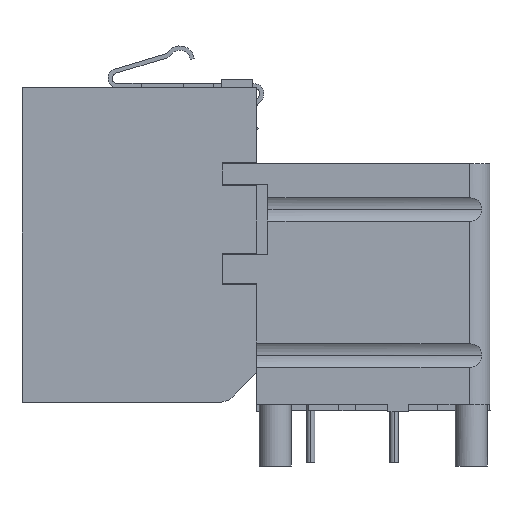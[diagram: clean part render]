
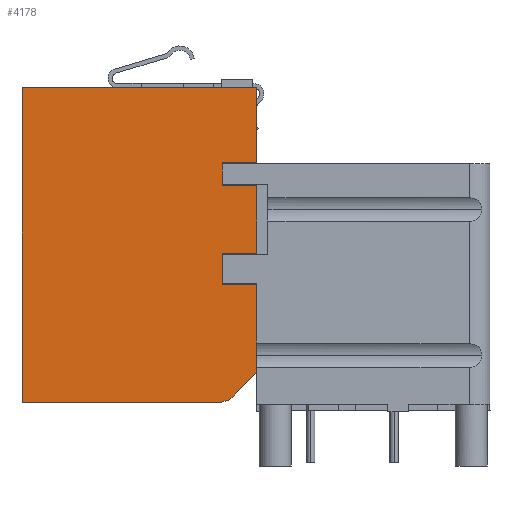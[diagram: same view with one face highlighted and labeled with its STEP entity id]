
A CAD part, front view. The second image highlights one B-rep face of the part: STEP entity #4178.
In plain terms, the highlighted planar face has unit normal (0, -1, 0).
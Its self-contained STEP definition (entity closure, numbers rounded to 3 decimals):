
#4083=AXIS2_PLACEMENT_3D('Circle Axis2P3D',#4081,#4082,$) ;
#4103=AXIS2_PLACEMENT_3D('Plane Axis2P3D',#4100,#4101,#4102) ;
#3100=CARTESIAN_POINT('Vertex',(2.25,-4.,-6.55)) ;
#3103=CARTESIAN_POINT('Line Origine',(1.697,-4.,-7.122)) ;
#3107=CARTESIAN_POINT('Vertex',(1.145,-4.,-7.694)) ;
#3174=CARTESIAN_POINT('Vertex',(2.25,-4.,-2.35)) ;
#3179=CARTESIAN_POINT('Line Origine',(2.25,-4.,-4.45)) ;
#3620=CARTESIAN_POINT('Vertex',(0.6,-4.,3.5)) ;
#3623=CARTESIAN_POINT('Line Origine',(0.6,-4.,2.95)) ;
#3627=CARTESIAN_POINT('Vertex',(0.6,-4.,2.4)) ;
#3648=CARTESIAN_POINT('Vertex',(0.6,-4.,-0.85)) ;
#3651=CARTESIAN_POINT('Line Origine',(0.6,-4.,-1.6)) ;
#3655=CARTESIAN_POINT('Vertex',(0.6,-4.,-2.35)) ;
#4081=CARTESIAN_POINT('Axis2P3D Location',(0.425,-4.,-7.)) ;
#4085=CARTESIAN_POINT('Vertex',(0.425,-4.,-8.)) ;
#4100=CARTESIAN_POINT('Axis2P3D Location',(0.,-4.,7.1)) ;
#4105=CARTESIAN_POINT('Line Origine',(1.425,-4.,2.4)) ;
#4109=CARTESIAN_POINT('Vertex',(2.25,-4.,2.4)) ;
#4112=CARTESIAN_POINT('Line Origine',(1.425,-4.,3.5)) ;
#4116=CARTESIAN_POINT('Vertex',(2.25,-4.,3.5)) ;
#4119=CARTESIAN_POINT('Line Origine',(2.25,-4.,5.3)) ;
#4123=CARTESIAN_POINT('Vertex',(2.25,-4.,7.1)) ;
#4126=CARTESIAN_POINT('Line Origine',(-3.375,-4.,7.1)) ;
#4130=CARTESIAN_POINT('Vertex',(-9.,-4.,7.1)) ;
#4133=CARTESIAN_POINT('Line Origine',(-9.,-4.,-0.45)) ;
#4137=CARTESIAN_POINT('Vertex',(-9.,-4.,-8.)) ;
#4140=CARTESIAN_POINT('Line Origine',(-4.287,-4.,-8.)) ;
#4145=CARTESIAN_POINT('Line Origine',(1.425,-4.,-2.35)) ;
#4150=CARTESIAN_POINT('Line Origine',(1.425,-4.,-0.85)) ;
#4154=CARTESIAN_POINT('Vertex',(2.25,-4.,-0.85)) ;
#4157=CARTESIAN_POINT('Line Origine',(2.25,-4.,0.775)) ;
#3104=DIRECTION('Vector Direction',(-0.695,0.,-0.719)) ;
#3180=DIRECTION('Vector Direction',(0.,0.,1.)) ;
#3624=DIRECTION('Vector Direction',(0.,0.,-1.)) ;
#3652=DIRECTION('Vector Direction',(0.,0.,-1.)) ;
#4082=DIRECTION('Axis2P3D Direction',(0.,-1.,0.)) ;
#4101=DIRECTION('Axis2P3D Direction',(0.,-1.,0.)) ;
#4102=DIRECTION('Axis2P3D XDirection',(0.,0.,-1.)) ;
#4106=DIRECTION('Vector Direction',(1.,0.,0.)) ;
#4113=DIRECTION('Vector Direction',(-1.,0.,0.)) ;
#4120=DIRECTION('Vector Direction',(0.,0.,1.)) ;
#4127=DIRECTION('Vector Direction',(-1.,0.,0.)) ;
#4134=DIRECTION('Vector Direction',(0.,0.,1.)) ;
#4141=DIRECTION('Vector Direction',(1.,0.,0.)) ;
#4146=DIRECTION('Vector Direction',(-1.,0.,0.)) ;
#4151=DIRECTION('Vector Direction',(1.,0.,0.)) ;
#4158=DIRECTION('Vector Direction',(0.,0.,1.)) ;
#3105=VECTOR('Line Direction',#3104,1.) ;
#3181=VECTOR('Line Direction',#3180,1.) ;
#3625=VECTOR('Line Direction',#3624,1.) ;
#3653=VECTOR('Line Direction',#3652,1.) ;
#4107=VECTOR('Line Direction',#4106,1.) ;
#4114=VECTOR('Line Direction',#4113,1.) ;
#4121=VECTOR('Line Direction',#4120,1.) ;
#4128=VECTOR('Line Direction',#4127,1.) ;
#4135=VECTOR('Line Direction',#4134,1.) ;
#4142=VECTOR('Line Direction',#4141,1.) ;
#4147=VECTOR('Line Direction',#4146,1.) ;
#4152=VECTOR('Line Direction',#4151,1.) ;
#4159=VECTOR('Line Direction',#4158,1.) ;
#4163=ORIENTED_EDGE('',*,*,#4111,.F.) ;
#4164=ORIENTED_EDGE('',*,*,#3629,.F.) ;
#4165=ORIENTED_EDGE('',*,*,#4118,.F.) ;
#4166=ORIENTED_EDGE('',*,*,#4125,.T.) ;
#4167=ORIENTED_EDGE('',*,*,#4132,.T.) ;
#4168=ORIENTED_EDGE('',*,*,#4139,.F.) ;
#4169=ORIENTED_EDGE('',*,*,#4144,.T.) ;
#4170=ORIENTED_EDGE('',*,*,#4087,.T.) ;
#4171=ORIENTED_EDGE('',*,*,#3109,.F.) ;
#4172=ORIENTED_EDGE('',*,*,#3183,.T.) ;
#4173=ORIENTED_EDGE('',*,*,#4149,.T.) ;
#4174=ORIENTED_EDGE('',*,*,#3657,.F.) ;
#4175=ORIENTED_EDGE('',*,*,#4156,.T.) ;
#4176=ORIENTED_EDGE('',*,*,#4161,.T.) ;
#4178=ADVANCED_FACE('KEY-B',(#4177),#4104,.T.) ;
#4084=CIRCLE('generated circle',#4083,1.) ;
#3109=EDGE_CURVE('',#3101,#3108,#3106,.T.) ;
#3183=EDGE_CURVE('',#3101,#3175,#3182,.T.) ;
#3629=EDGE_CURVE('',#3621,#3628,#3626,.T.) ;
#3657=EDGE_CURVE('',#3649,#3656,#3654,.T.) ;
#4087=EDGE_CURVE('',#4086,#3108,#4084,.T.) ;
#4111=EDGE_CURVE('',#3628,#4110,#4108,.T.) ;
#4118=EDGE_CURVE('',#4117,#3621,#4115,.T.) ;
#4125=EDGE_CURVE('',#4117,#4124,#4122,.T.) ;
#4132=EDGE_CURVE('',#4124,#4131,#4129,.T.) ;
#4139=EDGE_CURVE('',#4138,#4131,#4136,.T.) ;
#4144=EDGE_CURVE('',#4138,#4086,#4143,.T.) ;
#4149=EDGE_CURVE('',#3175,#3656,#4148,.T.) ;
#4156=EDGE_CURVE('',#3649,#4155,#4153,.T.) ;
#4161=EDGE_CURVE('',#4155,#4110,#4160,.T.) ;
#4162=EDGE_LOOP('',(#4163,#4164,#4165,#4166,#4167,#4168,#4169,#4170,#4171,#4172,#4173,#4174,#4175,#4176)) ;
#4177=FACE_OUTER_BOUND('',#4162,.T.) ;
#3106=LINE('Line',#3103,#3105) ;
#3182=LINE('Line',#3179,#3181) ;
#3626=LINE('Line',#3623,#3625) ;
#3654=LINE('Line',#3651,#3653) ;
#4108=LINE('Line',#4105,#4107) ;
#4115=LINE('Line',#4112,#4114) ;
#4122=LINE('Line',#4119,#4121) ;
#4129=LINE('Line',#4126,#4128) ;
#4136=LINE('Line',#4133,#4135) ;
#4143=LINE('Line',#4140,#4142) ;
#4148=LINE('Line',#4145,#4147) ;
#4153=LINE('Line',#4150,#4152) ;
#4160=LINE('Line',#4157,#4159) ;
#4104=PLANE('',#4103) ;
#3101=VERTEX_POINT('',#3100) ;
#3108=VERTEX_POINT('',#3107) ;
#3175=VERTEX_POINT('',#3174) ;
#3621=VERTEX_POINT('',#3620) ;
#3628=VERTEX_POINT('',#3627) ;
#3649=VERTEX_POINT('',#3648) ;
#3656=VERTEX_POINT('',#3655) ;
#4086=VERTEX_POINT('',#4085) ;
#4110=VERTEX_POINT('',#4109) ;
#4117=VERTEX_POINT('',#4116) ;
#4124=VERTEX_POINT('',#4123) ;
#4131=VERTEX_POINT('',#4130) ;
#4138=VERTEX_POINT('',#4137) ;
#4155=VERTEX_POINT('',#4154) ;
